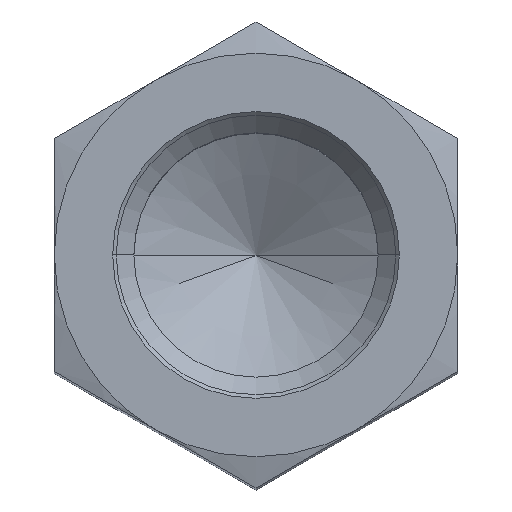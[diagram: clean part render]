
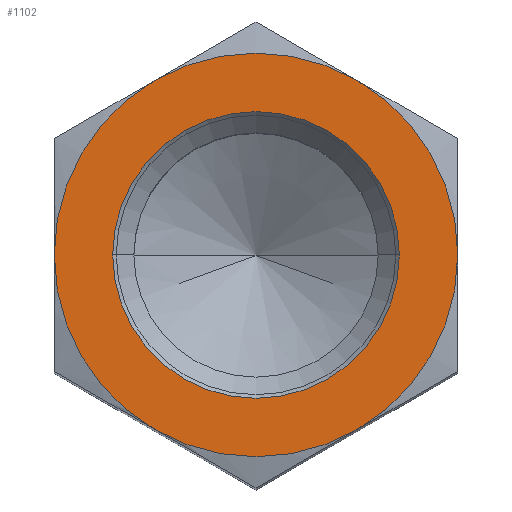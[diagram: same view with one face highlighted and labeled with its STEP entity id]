
A CAD part, top view. The second image highlights one B-rep face of the part: STEP entity #1102.
In plain terms, the highlighted planar face has unit normal (0, 0, 1).
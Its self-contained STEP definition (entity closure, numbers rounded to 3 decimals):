
#481=CARTESIAN_POINT('',(0.,0.,58.));
#482=DIRECTION('',(0.,0.,-1.));
#483=DIRECTION('',(1.,0.,0.));
#484=AXIS2_PLACEMENT_3D('',#481,#482,#483);
#489=CARTESIAN_POINT('',(0.,0.,58.));
#490=DIRECTION('',(0.,0.,-1.));
#491=DIRECTION('',(0.5,-0.866,0.));
#492=AXIS2_PLACEMENT_3D('',#489,#490,#491);
#497=CARTESIAN_POINT('',(0.,0.,58.));
#498=DIRECTION('',(0.,0.,-1.));
#499=DIRECTION('',(-0.5,-0.866,0.));
#500=AXIS2_PLACEMENT_3D('',#497,#498,#499);
#505=CARTESIAN_POINT('',(0.,0.,58.));
#506=DIRECTION('',(0.,0.,-1.));
#507=DIRECTION('',(-1.,0.,0.));
#508=AXIS2_PLACEMENT_3D('',#505,#506,#507);
#513=CARTESIAN_POINT('',(0.,0.,58.));
#514=DIRECTION('',(0.,0.,-1.));
#515=DIRECTION('',(-0.5,0.866,0.));
#516=AXIS2_PLACEMENT_3D('',#513,#514,#515);
#521=CARTESIAN_POINT('',(0.,0.,58.));
#522=DIRECTION('',(0.,0.,-1.));
#523=DIRECTION('',(0.5,0.866,0.));
#524=AXIS2_PLACEMENT_3D('',#521,#522,#523);
#529=CARTESIAN_POINT('',(0.,0.,58.));
#530=DIRECTION('',(0.,0.,1.));
#531=DIRECTION('',(-1.,0.,0.));
#532=AXIS2_PLACEMENT_3D('',#529,#530,#531);
#537=CARTESIAN_POINT('',(0.,0.,58.));
#538=DIRECTION('',(0.,0.,1.));
#539=DIRECTION('',(1.,0.,0.));
#540=AXIS2_PLACEMENT_3D('',#537,#538,#539);
#768=CARTESIAN_POINT('',(9.5,0.,58.));
#769=CARTESIAN_POINT('',(4.75,-8.227,58.));
#770=VERTEX_POINT('',#768);
#771=VERTEX_POINT('',#769);
#772=CARTESIAN_POINT('',(-4.75,-8.227,58.));
#773=VERTEX_POINT('',#772);
#774=CARTESIAN_POINT('',(-9.5,0.,58.));
#775=VERTEX_POINT('',#774);
#776=CARTESIAN_POINT('',(-4.75,8.227,58.));
#777=VERTEX_POINT('',#776);
#778=CARTESIAN_POINT('',(4.75,8.227,58.));
#779=VERTEX_POINT('',#778);
#808=CARTESIAN_POINT('',(-6.75,0.,58.));
#809=CARTESIAN_POINT('',(6.75,0.,58.));
#810=VERTEX_POINT('',#808);
#811=VERTEX_POINT('',#809);
#1080=CARTESIAN_POINT('',(0.,0.,58.));
#1081=DIRECTION('',(0.,0.,1.));
#1082=DIRECTION('',(1.,0.,0.));
#1083=AXIS2_PLACEMENT_3D('',#1080,#1081,#1082);
#1084=PLANE('',#1083);
#1086=ORIENTED_EDGE('',*,*,#1085,.T.);
#1088=ORIENTED_EDGE('',*,*,#1087,.T.);
#1090=ORIENTED_EDGE('',*,*,#1089,.T.);
#1091=ORIENTED_EDGE('',*,*,#1051,.T.);
#1092=ORIENTED_EDGE('',*,*,#1063,.T.);
#1093=ORIENTED_EDGE('',*,*,#1075,.T.);
#1094=EDGE_LOOP('',(#1086,#1088,#1090,#1091,#1092,#1093));
#1095=FACE_OUTER_BOUND('',#1094,.F.);
#1097=ORIENTED_EDGE('',*,*,#1096,.T.);
#1099=ORIENTED_EDGE('',*,*,#1098,.T.);
#1100=EDGE_LOOP('',(#1097,#1099));
#1101=FACE_BOUND('',#1100,.F.);
#485=CIRCLE('',#484,9.5);
#493=CIRCLE('',#492,9.5);
#501=CIRCLE('',#500,9.5);
#509=CIRCLE('',#508,9.5);
#517=CIRCLE('',#516,9.5);
#525=CIRCLE('',#524,9.5);
#533=CIRCLE('',#532,6.75);
#541=CIRCLE('',#540,6.75);
#1051=EDGE_CURVE('',#775,#777,#509,.T.);
#1063=EDGE_CURVE('',#777,#779,#517,.T.);
#1075=EDGE_CURVE('',#779,#770,#525,.T.);
#1085=EDGE_CURVE('',#770,#771,#485,.T.);
#1087=EDGE_CURVE('',#771,#773,#493,.T.);
#1089=EDGE_CURVE('',#773,#775,#501,.T.);
#1096=EDGE_CURVE('',#810,#811,#533,.T.);
#1098=EDGE_CURVE('',#811,#810,#541,.T.);
#1102=ADVANCED_FACE('',(#1095,#1101),#1084,.T.);
